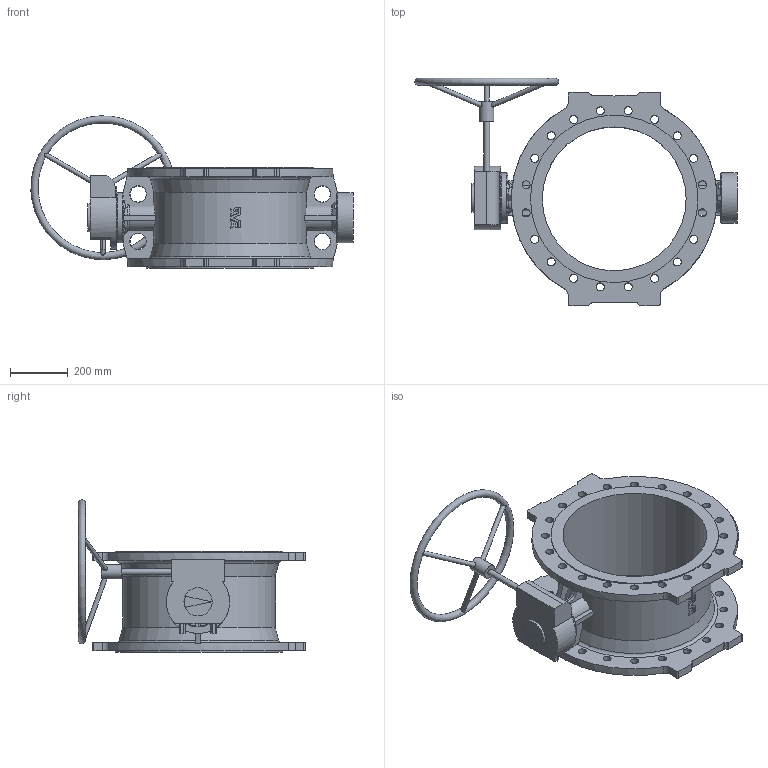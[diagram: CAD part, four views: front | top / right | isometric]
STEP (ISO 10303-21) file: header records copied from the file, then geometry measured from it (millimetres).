
FILE_DESCRIPTION (( 'STEP AP203' ), '1' );
FILE_NAME ('O_756_1_DN500_1XX00_AA0_step.step', '2016-03-04T11:52:16', ( 'Windows User' ), ( 'AVK' ), 'SwSTEP 2.0', 'SolidWorks 2012', '' );
FILE_SCHEMA (( 'CONFIG_CONTROL_DESIGN' ));
Length unit declared in the file: millimetre
Products named in the file (1): O_756_1_DN500_1XX00_AA0_step
Bounding box: 1119.68 x 789.97 x 529.31 mm (x, y, z)
Volume: 29532948.6 mm3; surface area: 2539040.4 mm2
Topology: 1 solids, 1 shells, 434 faces, 1273 edges, 858 vertices
Faces by surface type: plane 158, cylinder 118, bspline 108, torus 30, cone 20
Full cylindrical faces by diameter (mm): 16 x3, 20 x1, 28 x40, 50 x1, 98 x1, 175 x2, 220 x1, 500 x1, 582 x2
Entity records: 18107 total; most frequent: CARTESIAN_POINT 7866, ORIENTED_EDGE 2314, DIRECTION 1641, EDGE_CURVE 1157, VERTEX_POINT 804, AXIS2_PLACEMENT_3D 636, EDGE_LOOP 607, FACE_OUTER_BOUND 486
